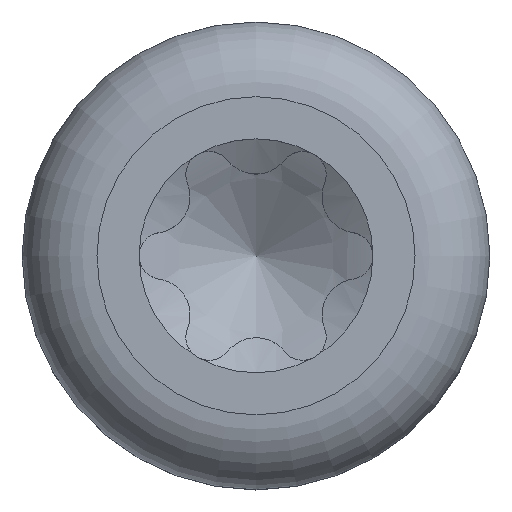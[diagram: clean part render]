
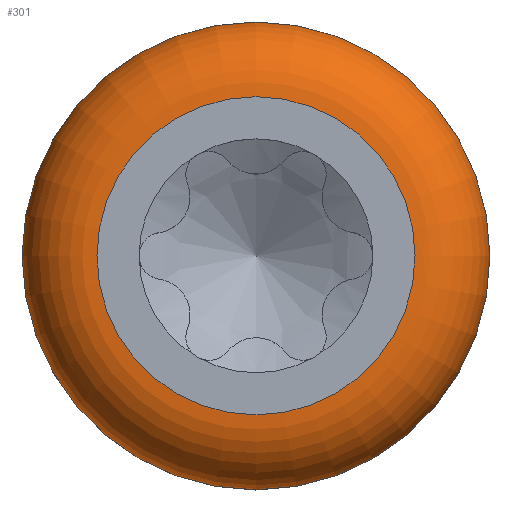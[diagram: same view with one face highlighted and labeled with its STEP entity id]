
A CAD part, top view. The second image highlights one B-rep face of the part: STEP entity #301.
In plain terms, the highlighted toroidal (fillet/blend) face has major radius 0.68 mm and minor radius 0.32 mm.
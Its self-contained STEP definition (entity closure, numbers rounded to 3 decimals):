
#301=ADVANCED_FACE('',(#503,#504),#375,.T.);
#375=TOROIDAL_SURFACE('',#1340,0.68,0.32);
#503=FACE_BOUND('',#527,.T.);
#504=FACE_BOUND('',#528,.T.);
#527=EDGE_LOOP('',(#661));
#528=EDGE_LOOP('',(#662));
#661=ORIENTED_EDGE('',*,*,#1160,.F.);
#662=ORIENTED_EDGE('',*,*,#1159,.T.);
#1033=VERTEX_POINT('',#2868);
#1034=VERTEX_POINT('',#2871);
#1159=EDGE_CURVE('',#1033,#1033,#1310,.T.);
#1160=EDGE_CURVE('',#1034,#1034,#1311,.T.);
#1310=CIRCLE('',#1337,1.);
#1311=CIRCLE('',#1339,0.68);
#1337=AXIS2_PLACEMENT_3D('',#2867,#1410,#1411);
#1339=AXIS2_PLACEMENT_3D('',#2870,#1414,#1415);
#1340=AXIS2_PLACEMENT_3D('',#2872,#1416,#1417);
#1410=DIRECTION('',(0.,0.,1.));
#1411=DIRECTION('',(1.,0.,0.));
#1414=DIRECTION('',(0.,0.,1.));
#1415=DIRECTION('',(1.,0.,0.));
#1416=DIRECTION('',(0.,0.,1.));
#1417=DIRECTION('',(1.,0.,0.));
#2867=CARTESIAN_POINT('',(0.,0.,0.48));
#2868=CARTESIAN_POINT('',(1.,0.,0.48));
#2870=CARTESIAN_POINT('',(0.,0.,0.8));
#2871=CARTESIAN_POINT('',(0.68,0.,0.8));
#2872=CARTESIAN_POINT('',(0.,0.,0.48));
